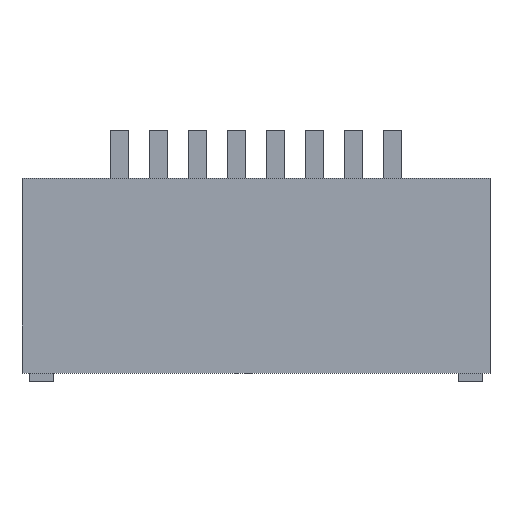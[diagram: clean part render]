
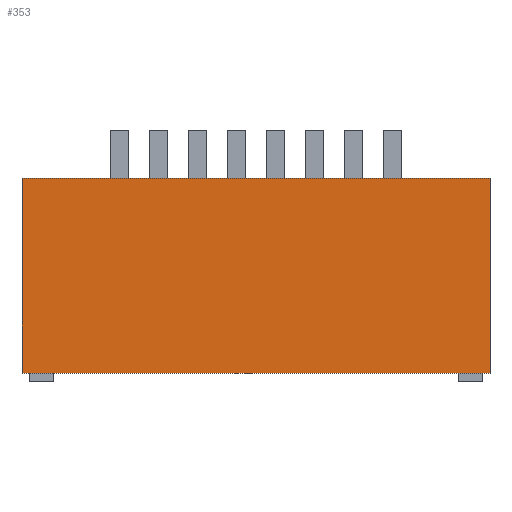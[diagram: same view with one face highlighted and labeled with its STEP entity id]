
A CAD part, top view. The second image highlights one B-rep face of the part: STEP entity #353.
In plain terms, the highlighted planar face has unit normal (0, 0, 1).
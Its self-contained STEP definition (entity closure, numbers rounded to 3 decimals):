
#39 = VERTEX_POINT('',#40);
#40 = CARTESIAN_POINT('',(-3.,1.125,1.));
#47 = PLANE('',#48);
#48 = AXIS2_PLACEMENT_3D('',#49,#50,#51);
#49 = CARTESIAN_POINT('',(-3.,1.125,0.));
#50 = DIRECTION('',(0.,1.,0.));
#51 = DIRECTION('',(1.,0.,0.));
#59 = PLANE('',#60);
#60 = AXIS2_PLACEMENT_3D('',#61,#62,#63);
#61 = CARTESIAN_POINT('',(-3.,-1.375,0.));
#62 = DIRECTION('',(-1.,0.,0.));
#63 = DIRECTION('',(0.,1.,0.));
#71 = EDGE_CURVE('',#39,#72,#74,.T.);
#72 = VERTEX_POINT('',#73);
#73 = CARTESIAN_POINT('',(3.,1.125,1.));
#74 = SURFACE_CURVE('',#75,(#79,#86),.PCURVE_S1.);
#75 = LINE('',#76,#77);
#76 = CARTESIAN_POINT('',(-3.,1.125,1.));
#77 = VECTOR('',#78,1.);
#78 = DIRECTION('',(1.,0.,0.));
#79 = PCURVE('',#47,#80);
#80 = DEFINITIONAL_REPRESENTATION('',(#81),#85);
#81 = LINE('',#82,#83);
#82 = CARTESIAN_POINT('',(0.,-1.));
#83 = VECTOR('',#84,1.);
#84 = DIRECTION('',(1.,0.));
#85 = ( GEOMETRIC_REPRESENTATION_CONTEXT(2) 
PARAMETRIC_REPRESENTATION_CONTEXT() REPRESENTATION_CONTEXT('2D SPACE',''
  ) );
#86 = PCURVE('',#87,#92);
#87 = PLANE('',#88);
#88 = AXIS2_PLACEMENT_3D('',#89,#90,#91);
#89 = CARTESIAN_POINT('',(0.,-0.125,1.));
#90 = DIRECTION('',(-0.,-0.,-1.));
#91 = DIRECTION('',(-1.,0.,0.));
#92 = DEFINITIONAL_REPRESENTATION('',(#93),#97);
#93 = LINE('',#94,#95);
#94 = CARTESIAN_POINT('',(3.,1.25));
#95 = VECTOR('',#96,1.);
#96 = DIRECTION('',(-1.,0.));
#97 = ( GEOMETRIC_REPRESENTATION_CONTEXT(2) 
PARAMETRIC_REPRESENTATION_CONTEXT() REPRESENTATION_CONTEXT('2D SPACE',''
  ) );
#115 = PLANE('',#116);
#116 = AXIS2_PLACEMENT_3D('',#117,#118,#119);
#117 = CARTESIAN_POINT('',(3.,1.125,0.));
#118 = DIRECTION('',(1.,0.,-0.));
#119 = DIRECTION('',(0.,-1.,0.));
#157 = EDGE_CURVE('',#72,#158,#160,.T.);
#158 = VERTEX_POINT('',#159);
#159 = CARTESIAN_POINT('',(3.,-1.375,1.));
#160 = SURFACE_CURVE('',#161,(#165,#172),.PCURVE_S1.);
#161 = LINE('',#162,#163);
#162 = CARTESIAN_POINT('',(3.,1.125,1.));
#163 = VECTOR('',#164,1.);
#164 = DIRECTION('',(0.,-1.,0.));
#165 = PCURVE('',#115,#166);
#166 = DEFINITIONAL_REPRESENTATION('',(#167),#171);
#167 = LINE('',#168,#169);
#168 = CARTESIAN_POINT('',(0.,-1.));
#169 = VECTOR('',#170,1.);
#170 = DIRECTION('',(1.,0.));
#171 = ( GEOMETRIC_REPRESENTATION_CONTEXT(2) 
PARAMETRIC_REPRESENTATION_CONTEXT() REPRESENTATION_CONTEXT('2D SPACE',''
  ) );
#172 = PCURVE('',#87,#173);
#173 = DEFINITIONAL_REPRESENTATION('',(#174),#178);
#174 = LINE('',#175,#176);
#175 = CARTESIAN_POINT('',(-3.,1.25));
#176 = VECTOR('',#177,1.);
#177 = DIRECTION('',(0.,-1.));
#178 = ( GEOMETRIC_REPRESENTATION_CONTEXT(2) 
PARAMETRIC_REPRESENTATION_CONTEXT() REPRESENTATION_CONTEXT('2D SPACE',''
  ) );
#196 = PLANE('',#197);
#197 = AXIS2_PLACEMENT_3D('',#198,#199,#200);
#198 = CARTESIAN_POINT('',(3.,-1.375,0.));
#199 = DIRECTION('',(0.,-1.,0.));
#200 = DIRECTION('',(-1.,0.,0.));
#233 = EDGE_CURVE('',#158,#234,#236,.T.);
#234 = VERTEX_POINT('',#235);
#235 = CARTESIAN_POINT('',(-3.,-1.375,1.));
#236 = SURFACE_CURVE('',#237,(#241,#248),.PCURVE_S1.);
#237 = LINE('',#238,#239);
#238 = CARTESIAN_POINT('',(3.,-1.375,1.));
#239 = VECTOR('',#240,1.);
#240 = DIRECTION('',(-1.,0.,0.));
#241 = PCURVE('',#196,#242);
#242 = DEFINITIONAL_REPRESENTATION('',(#243),#247);
#243 = LINE('',#244,#245);
#244 = CARTESIAN_POINT('',(0.,-1.));
#245 = VECTOR('',#246,1.);
#246 = DIRECTION('',(1.,0.));
#247 = ( GEOMETRIC_REPRESENTATION_CONTEXT(2) 
PARAMETRIC_REPRESENTATION_CONTEXT() REPRESENTATION_CONTEXT('2D SPACE',''
  ) );
#248 = PCURVE('',#87,#249);
#249 = DEFINITIONAL_REPRESENTATION('',(#250),#254);
#250 = LINE('',#251,#252);
#251 = CARTESIAN_POINT('',(-3.,-1.25));
#252 = VECTOR('',#253,1.);
#253 = DIRECTION('',(1.,0.));
#254 = ( GEOMETRIC_REPRESENTATION_CONTEXT(2) 
PARAMETRIC_REPRESENTATION_CONTEXT() REPRESENTATION_CONTEXT('2D SPACE',''
  ) );
#304 = EDGE_CURVE('',#234,#39,#305,.T.);
#305 = SURFACE_CURVE('',#306,(#310,#317),.PCURVE_S1.);
#306 = LINE('',#307,#308);
#307 = CARTESIAN_POINT('',(-3.,-1.375,1.));
#308 = VECTOR('',#309,1.);
#309 = DIRECTION('',(0.,1.,0.));
#310 = PCURVE('',#59,#311);
#311 = DEFINITIONAL_REPRESENTATION('',(#312),#316);
#312 = LINE('',#313,#314);
#313 = CARTESIAN_POINT('',(0.,-1.));
#314 = VECTOR('',#315,1.);
#315 = DIRECTION('',(1.,0.));
#316 = ( GEOMETRIC_REPRESENTATION_CONTEXT(2) 
PARAMETRIC_REPRESENTATION_CONTEXT() REPRESENTATION_CONTEXT('2D SPACE',''
  ) );
#317 = PCURVE('',#87,#318);
#318 = DEFINITIONAL_REPRESENTATION('',(#319),#323);
#319 = LINE('',#320,#321);
#320 = CARTESIAN_POINT('',(3.,-1.25));
#321 = VECTOR('',#322,1.);
#322 = DIRECTION('',(0.,1.));
#323 = ( GEOMETRIC_REPRESENTATION_CONTEXT(2) 
PARAMETRIC_REPRESENTATION_CONTEXT() REPRESENTATION_CONTEXT('2D SPACE',''
  ) );
#353 = ADVANCED_FACE('',(#354),#87,.F.);
#354 = FACE_BOUND('',#355,.F.);
#355 = EDGE_LOOP('',(#356,#357,#358,#359));
#356 = ORIENTED_EDGE('',*,*,#71,.T.);
#357 = ORIENTED_EDGE('',*,*,#157,.T.);
#358 = ORIENTED_EDGE('',*,*,#233,.T.);
#359 = ORIENTED_EDGE('',*,*,#304,.T.);
